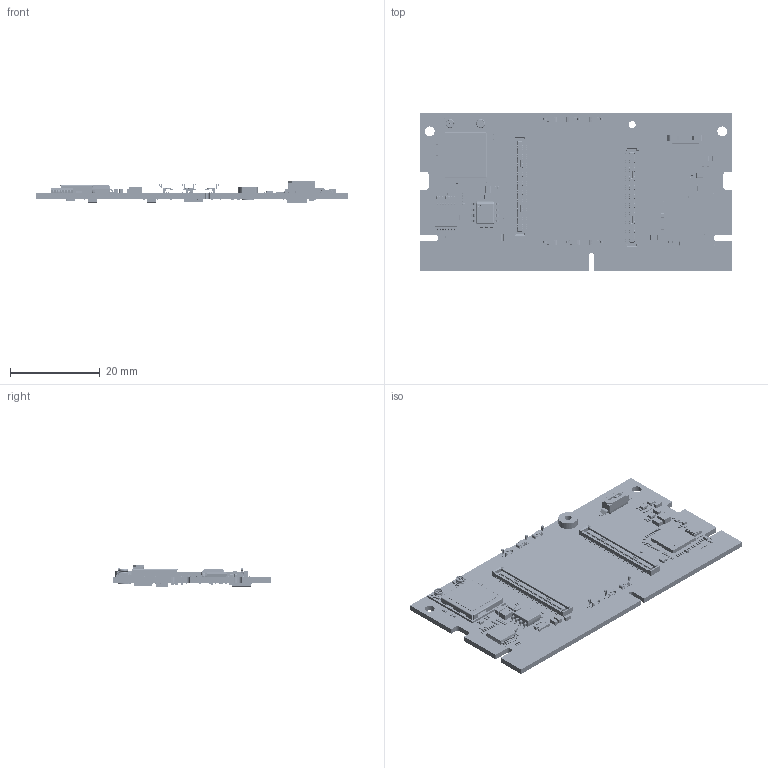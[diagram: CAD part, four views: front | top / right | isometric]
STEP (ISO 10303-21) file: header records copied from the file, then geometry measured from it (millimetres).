
FILE_DESCRIPTION(('Open CASCADE Model'),'2;1');
FILE_NAME('Open CASCADE Shape Model','2026-02-25T19:50:14',('Author'),( 'Open CASCADE'),'Open CASCADE STEP processor 7.5','Open CASCADE 7.5' ,'Unknown');
FILE_SCHEMA(('AUTOMOTIVE_DESIGN { 1 0 10303 214 1 1 1 1 }'));
Length unit declared in the file: millimetre
Products named in the file (348): PCB; Board; Open CASCADE STEP translator 7.5 2.1.1; SW1; c-6-2319848-4-a-3d; C134; User Library-0201(0603M) Cap; R53; User Library-0201(0603M) Res; MECH1; 9774015243R (rev1); X32; c-1551573-5-b-3d; X29; X27; X26; X23; X21; X12; User Library-DF40C-100DP-0_4V(51); X11; Q3; User Library-SOT-563; OSC2; User Library-Oscillator2520-4pol-1; User Library-Oscillator2520-4pol-1_Pad002; User Library-Oscillator2520-4pol-1_Pad001; User Library-Oscillator2520-4pol-1_Cut004; User Library-Oscillator2520-4pol-1_Zylinder; User Library-Oscillator2520-4pol-1_Cut; OSC1; User Library-Crystal TXC Corp 7M series; R21; R27; T2; L2; 9713423840; Extruded; 9713422112; IC9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
Assembly tree (623 placements, depth 5):
  PCB
    Board
      Open CASCADE STEP translator 7.5 2.1.1
    SW1
      c-6-2319848-4-a-3d
    C134
      User Library-0201(0603M) Cap
    R53
      User Library-0201(0603M) Res
    MECH1
      9774015243R (rev1)
    X32
      c-1551573-5-b-3d
    X29
      c-1551573-5-b-3d
    X27
      c-1551573-5-b-3d
    X26
      c-1551573-5-b-3d
    X23
      c-1551573-5-b-3d
    X21
      c-1551573-5-b-3d
    X12
      User Library-DF40C-100DP-0_4V(51)
    X11
      User Library-DF40C-100DP-0_4V(51)
    Q3
      User Library-SOT-563
    OSC2
      User Library-Oscillator2520-4pol-1
        User Library-Oscillator2520-4pol-1_Pad002
        User Library-Oscillator2520-4pol-1_Pad001
        User Library-Oscillator2520-4pol-1_Cut004
        User Library-Oscillator2520-4pol-1_Zylinder
        User Library-Oscillator2520-4pol-1_Cut
    OSC1
      User Library-Crystal TXC Corp 7M series
    R21
      User Library-0201(0603M) Res
    R27
      User Library-0201(0603M) Res
    T2
      User Library-SOT-563
    L2
      9713423840  x2
        Extruded
      9713422112
        Extruded
    IC9
      9647143312
        Open CASCADE STEP translator 6.8 12.1
        Body
          Open CASCADE STEP translator 6.8 12.2.1
        Thermal_Shape
        Pin_Shape  x20
          Open CASCADE STEP translator 6.8 12.4.1
    R98
      User Library-0201(0603M) Res
    R43
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Bounding box: 69.6 x 35 x 5.02 mm (x, y, z)
Volume: 3387.6 mm3; surface area: 7928 mm2
Topology: 724 solids, 727 shells, 26104 faces, 66374 edges, 41849 vertices
Faces by surface type: plane 13538, bspline 7832, cylinder 4618, torus 56, sphere 32, cone 24, revolution 4
Full cylindrical faces by diameter (mm): 0.325 x1, 0.328 x1, 0.512 x1, 0.881 x1, 1.567 x1, 2.2 x2, 2.8 x1, 3 x1, 4.35 x1
Entity records: 189756 total; most frequent: CARTESIAN_POINT 40589, ORIENTED_EDGE 27083, DIRECTION 24464, EDGE_CURVE 13543, LINE 10556, VECTOR 10556, VERTEX_POINT 8903, AXIS2_PLACEMENT_3D 6952
